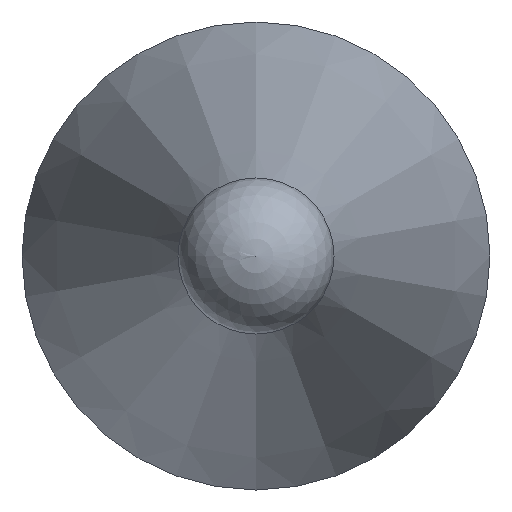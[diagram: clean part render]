
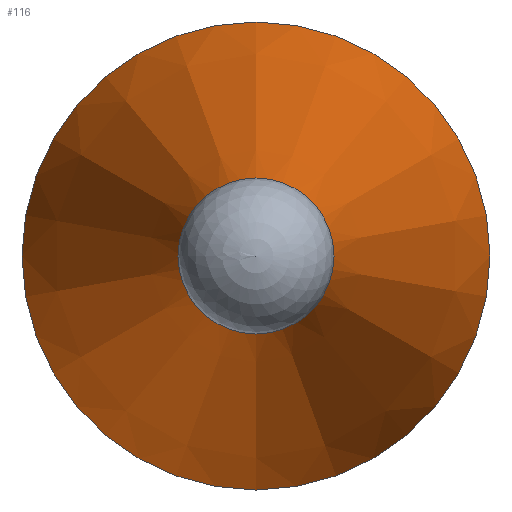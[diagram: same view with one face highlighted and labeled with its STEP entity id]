
A CAD part, left-side view. The second image highlights one B-rep face of the part: STEP entity #116.
In plain terms, the highlighted conical face has half-angle 15 degrees and reference radius 0.95 mm.
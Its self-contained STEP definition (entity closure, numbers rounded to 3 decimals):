
#100=CONICAL_SURFACE('',#182,0.95,15.);
#105=FACE_BOUND('',#130,.T.);
#106=FACE_BOUND('',#131,.T.);
#116=ADVANCED_FACE('',(#105,#106),#100,.T.);
#130=EDGE_LOOP('',(#144));
#131=EDGE_LOOP('',(#145));
#144=ORIENTED_EDGE('',*,*,#162,.T.);
#145=ORIENTED_EDGE('',*,*,#163,.F.);
#155=VERTEX_POINT('',#230);
#156=VERTEX_POINT('',#233);
#162=EDGE_CURVE('',#155,#155,#169,.T.);
#163=EDGE_CURVE('',#156,#156,#170,.T.);
#169=CIRCLE('',#179,3.);
#170=CIRCLE('',#181,0.95);
#179=AXIS2_PLACEMENT_3D('',#229,#200,#201);
#181=AXIS2_PLACEMENT_3D('',#232,#204,#205);
#182=AXIS2_PLACEMENT_3D('',#234,#206,#207);
#200=DIRECTION('',(-1.,0.,0.));
#201=DIRECTION('',(0.,0.,1.));
#204=DIRECTION('',(-1.,0.,0.));
#205=DIRECTION('',(0.,0.,1.));
#206=DIRECTION('',(1.,0.,0.));
#207=DIRECTION('',(0.,0.,-1.));
#229=CARTESIAN_POINT('',(7907.569,6103.288,0.));
#230=CARTESIAN_POINT('',(7907.569,6103.288,3.));
#232=CARTESIAN_POINT('',(7899.919,6103.288,0.));
#233=CARTESIAN_POINT('',(7899.919,6103.288,0.95));
#234=CARTESIAN_POINT('',(7899.919,6103.288,0.));
